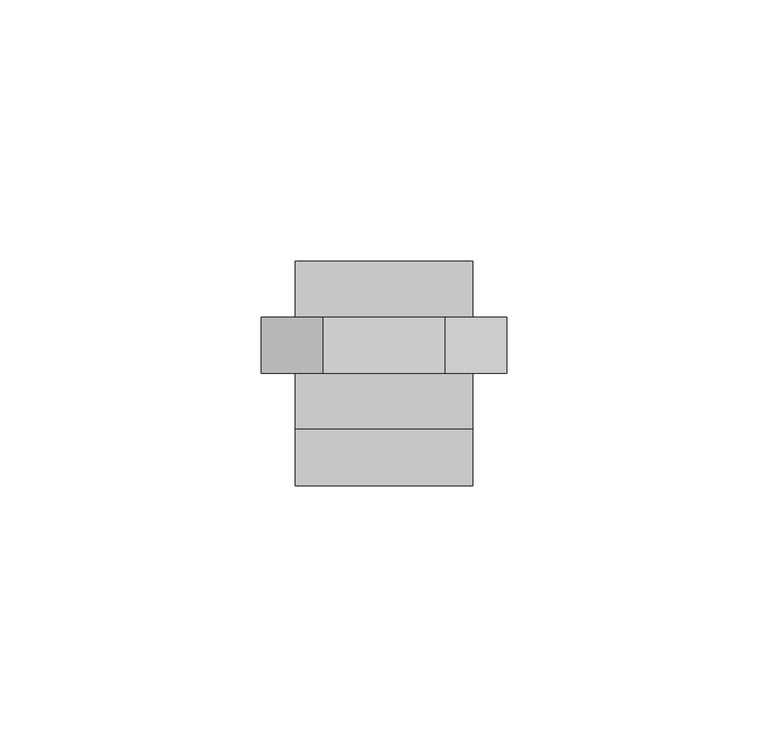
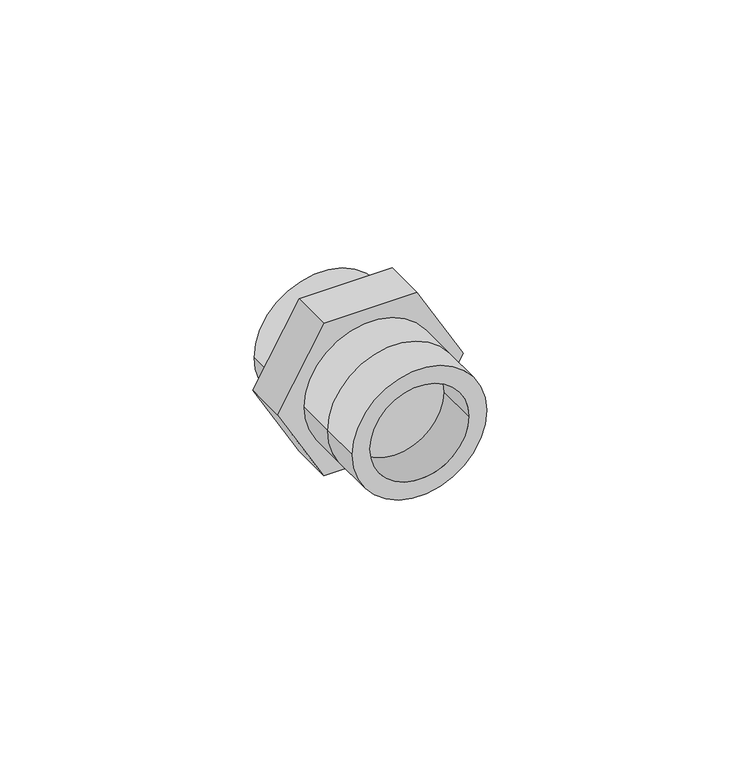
"""IFC4 building model written with IfcOpenShell, lengths in millimetres: pipe fitting geometry, EGB_VASEN_ PPR_Enlace desmontable soldar soldar WXR109 : Enlace desmontable soldar-soldar WXR109."""

from ifc_helpers import new_model, si_unit, point, frame, origin, origin_2d, place, context, project, spatial, polyline, circle_curve, trimmed, segment, composite_curve, outline, extrude, source, transform, mapped, element, save


def pipe_fitting_b7ea1da1(model_context):
    return source(origin(), model_context, "Body", "SweptSolid", [
        extrude(outline(polyline([(0.0, 23.555891), (20.4, 11.7779455), (20.4, -11.7779455), (0.0, -23.555891), (-20.4, -11.7779455), (-20.4, 11.7779455), (0.0, 23.555891)])), frame((0.0, 1.39375, 0.0), z_axis=(0.0, 1.0, 0.0), x_axis=(0.0, 0.0, 1.0)), (0.0, 0.0, 1.0), 10.75),
        extrude(outline(composite_curve([segment(trimmed(circle_curve(origin_2d(), 17.0), [point((0.0, -17.0))], [point((0.0, 17.0))], False, "CARTESIAN"), True, "CONTINUOUS"), segment(trimmed(circle_curve(origin_2d(), 17.0), [point((0.0, 17.0))], [point((0.0, -17.0))], False, "CARTESIAN"), True, "CONTINUOUS")], self_intersect=False), holes=[composite_curve([segment(trimmed(circle_curve(origin_2d(), 12.5), [point((0.0, -12.5))], [point((0.0, 12.5))], True, "CARTESIAN"), True, "CONTINUOUS"), segment(trimmed(circle_curve(origin_2d(), 12.5), [point((0.0, 12.5))], [point((0.0, -12.5))], True, "CARTESIAN"), True, "CONTINUOUS")], self_intersect=False)]), frame((0.0, -20.10625, 0.0), z_axis=(0.0, 1.0, 0.0), x_axis=(0.0, 0.0, 1.0)), (0.0, 0.0, 1.0), 10.75),
        extrude(outline(composite_curve([segment(trimmed(circle_curve(origin_2d(), 17.0), [point((0.0, -17.0))], [point((0.0, 17.0))], False, "CARTESIAN"), True, "CONTINUOUS"), segment(trimmed(circle_curve(origin_2d(), 17.0), [point((0.0, 17.0))], [point((0.0, -17.0))], False, "CARTESIAN"), True, "CONTINUOUS")], self_intersect=False), holes=[composite_curve([segment(trimmed(circle_curve(origin_2d(), 12.5), [point((0.0, -12.5))], [point((0.0, 12.5))], True, "CARTESIAN"), True, "CONTINUOUS"), segment(trimmed(circle_curve(origin_2d(), 12.5), [point((0.0, 12.5))], [point((0.0, -12.5))], True, "CARTESIAN"), True, "CONTINUOUS")], self_intersect=False)]), frame((0.0, 12.14375, 0.0), z_axis=(0.0, 1.0, 0.0), x_axis=(0.0, 0.0, 1.0)), (0.0, 0.0, 1.0), 10.75),
        extrude(outline(composite_curve([segment(trimmed(circle_curve(origin_2d(), 17.0), [point((0.0, -17.0))], [point((0.0, 17.0))], False, "CARTESIAN"), True, "CONTINUOUS"), segment(trimmed(circle_curve(origin_2d(), 17.0), [point((0.0, 17.0))], [point((0.0, -17.0))], False, "CARTESIAN"), True, "CONTINUOUS")], self_intersect=False)), frame((0.0, -9.35625, 0.0), z_axis=(0.0, 1.0, 0.0), x_axis=(0.0, 0.0, 1.0)), (0.0, 0.0, 1.0), 10.75),
    ])


if __name__ == "__main__":
    model = new_model("IFC4")
    model_context = context("Model", 3, world=origin())
    ifc_project = project(units=[si_unit("LENGTHUNIT", "METRE", prefix="MILLI")], contexts=[model_context])
    site = spatial("IfcSite", under=ifc_project)
    building = spatial("IfcBuilding", under=site)
    placement = place(None, origin())
    pipe_fitting_shape = pipe_fitting_b7ea1da1(model_context)
    element("IfcPipeFitting", 1, ObjectType="EGB_VASEN_ PPR_Enlace desmontable soldar soldar WXR109 : Enlace desmontable soldar-soldar WXR109", at=placement, inside=building, context=model_context, shape_type="MappedRepresentation", body=[
        mapped(pipe_fitting_shape, transform((0.0, 0.0, 0.0), x_axis=(1.0, 0.0, 0.0), y_axis=(0.0, 1.0, 0.0), z_axis=(0.0, 0.0, 1.0))),
    ])
    save(model, "model.ifc")
